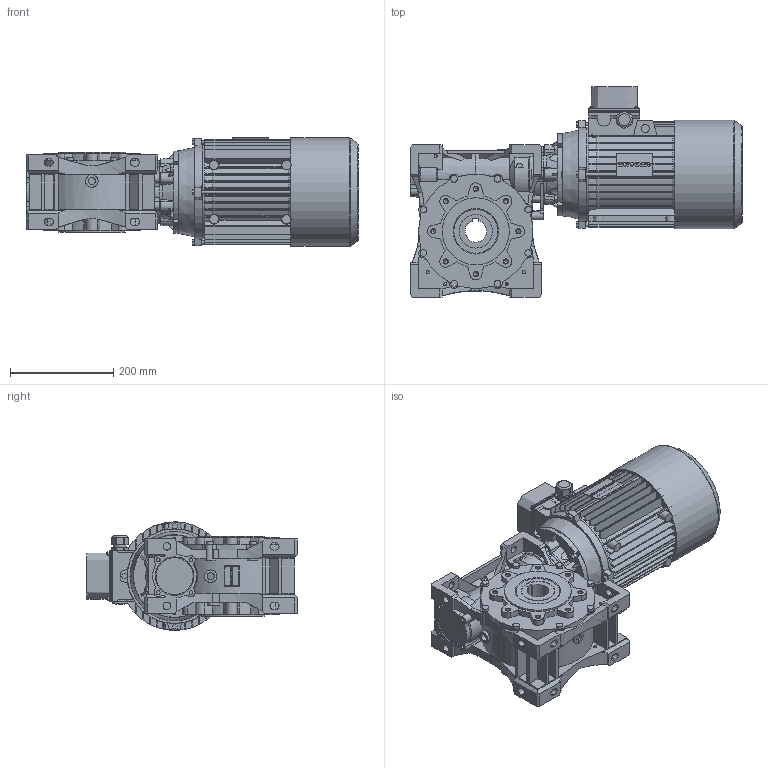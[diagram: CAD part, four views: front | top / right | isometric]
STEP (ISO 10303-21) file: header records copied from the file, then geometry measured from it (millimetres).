
FILE_DESCRIPTION(/* description */ ('STEP AP203'),/* implementation_level */ '2;1');
FILE_NAME(/* name */ 'NMRVP_110_160x28_42_NO_NO_-_-_NO_-_-_-_NO_TP_112_112M41-_-----IC411NONO------STD',/* time_stamp */ '2025-12-05T03:42:51+01:00',/* author */ ('License CC BY-ND 4.0'),/* organization */ ('CADENAS'),/* preprocessor_version */ 'ST-DEVELOPER v20',/* originating_system */ 'PARTsolutions',/* authorisation */ ' ');
FILE_SCHEMA (('CONFIG_CONTROL_DESIGN'));
Length unit declared in the file: millimetre
Products named in the file (13): NMRVP 110 160x28 42 NO NO - - NO - - - NO TP 112 112M41-(-----IC411NO
NO------STD); W.110.01.M; 110-42 (155); W.110.14.28.M-p; 110100/112 B14; FLANGIA_TP112B14-; CARCASSA_TP112M4112IC411B1428X60NONO--; COPRIMORSETTIERA_TP112A002; PRESSACAVO_3; COP_TP_112M4_IC411_NO_-_-_-_-_STD; TIPPO_25; ALBERO_TP11228X60NO; 110-65
Assembly tree (12 placements, depth 2):
  NMRVP 110 160x28 42 NO NO - - NO - - - NO TP 112 112M41-(-----IC411NO
NO------STD)
    W.110.01.M
    110-42 (155)
    W.110.14.28.M-p
    110100/112 B14
    FLANGIA_TP112B14-
    CARCASSA_TP112M4112IC411B1428X60NONO--
    COPRIMORSETTIERA_TP112A002
    PRESSACAVO_3
    COP_TP_112M4_IC411_NO_-_-_-_-_STD
    TIPPO_25
    ALBERO_TP11228X60NO
    110-65
Bounding box: 643 x 407.6 x 211.06 mm (x, y, z)
Volume: 18875116.9 mm3; surface area: 1372218.2 mm2
Topology: 12 solids, 16 shells, 3372 faces, 9210 edges, 6067 vertices
Faces by surface type: plane 1780, cylinder 1356, cone 224, torus 6, sphere 5, bspline 1
Full cylindrical faces by diameter (mm): 1.8 x1, 2.02 x1, 5.5 x2, 6 x14, 7.45 x16, 8 x12, 8.376 x17, 10.5 x1, 13 x8, 14 x8, 14.5 x2, 16 x2, 24 x2, 25 x3, 28 x1, 30 x2, 39 x1, 41 x1, 50 x1, 55 x1, 56 x1, 63 x1, 65 x3, 79 x1, 90 x3, 99 x1, 110 x1, 130 x2, 178 x2, 183 x2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
Entity records: 107156 total; most frequent: CARTESIAN_POINT 20175, DIRECTION 18517, ORIENTED_EDGE 17950, EDGE_CURVE 8975, AXIS2_PLACEMENT_3D 6642, VERTEX_POINT 6026, LINE 5233, VECTOR 5233
